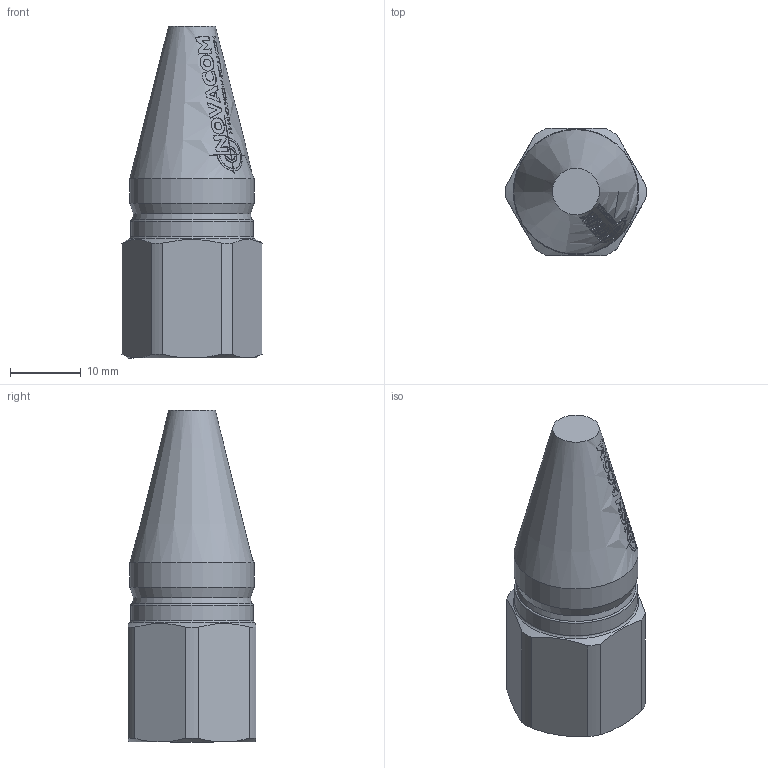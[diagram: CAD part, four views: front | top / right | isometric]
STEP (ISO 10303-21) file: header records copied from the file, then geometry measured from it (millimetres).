
FILE_DESCRIPTION (( 'STEP AP214' ), '1' );
FILE_NAME ('STEP - BS F14.STEP', '2023-07-20T07:29:22', ( '' ), ( '' ), 'SwSTEP 2.0', 'SolidWorks 2021', '' );
FILE_SCHEMA (( 'AUTOMOTIVE_DESIGN' ));
Length unit declared in the file: millimetre
Products named in the file (1): STEP - BS F14
Bounding box: 19.8 x 18 x 46.8 mm (x, y, z)
Volume: 7435.4 mm3; surface area: 3595.6 mm2
Topology: 1 solids, 1 shells, 506 faces, 1381 edges, 929 vertices
Faces by surface type: bspline 422, cone 63, plane 10, cylinder 9, torus 2
Full cylindrical faces by diameter (mm): 17.3 x1, 17.5 x1
Entity records: 40949 total; most frequent: CARTESIAN_POINT 26502, ORIENTED_EDGE 2728, EDGE_CURVE 1364, B_SPLINE_CURVE_WITH_KNOTS 1308, VERTEX_POINT 923, EDGE_LOOP 567, FACE_OUTER_BOUND 509, UNCERTAINTY_MEASURE_WITH_UNIT 506
